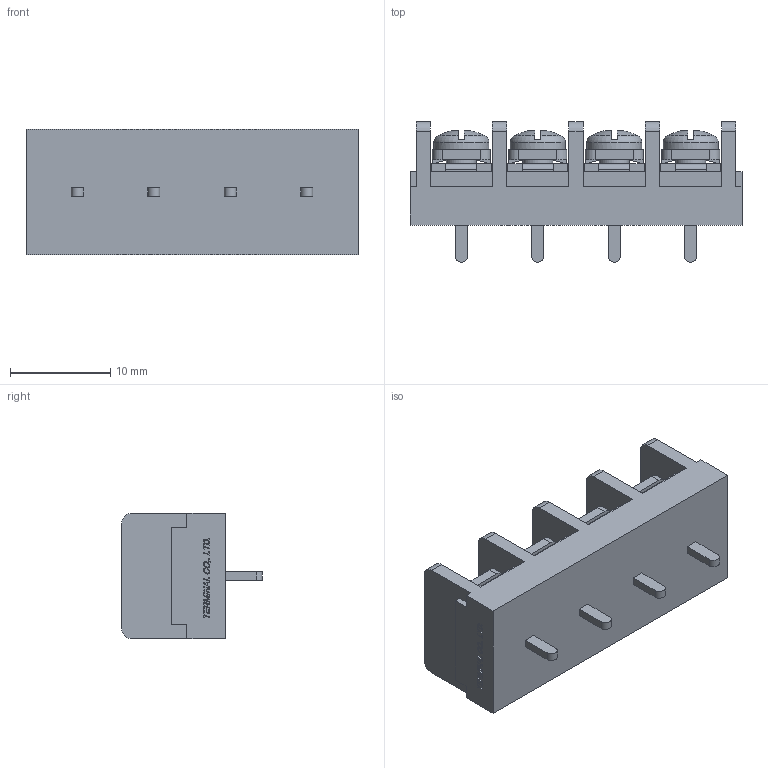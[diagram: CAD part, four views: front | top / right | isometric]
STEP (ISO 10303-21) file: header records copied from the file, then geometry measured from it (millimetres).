
FILE_DESCRIPTION(/* description */ ('Alibre Inc.'),/* implementation_level */ '2;1');
FILE_NAME(/* name */ 'export0',/* time_stamp */ '2015-10-26T16:45:52+09:00',/* author */ (''),/* organization */ (''),/* preprocessor_version */ 'ST-DEVELOPER v14',/* originating_system */ 'Alibre',/* authorisation */ '');
FILE_SCHEMA (('CONFIG_CONTROL_DESIGN'));
Length unit declared in the file: centimetre
Products named in the file (1): ID_1
Bounding box: 33.1 x 14 x 12.5 mm (x, y, z)
Volume: 3003 mm3; surface area: 2809.4 mm2
Topology: 1 solids, 1 shells, 770 faces, 2096 edges, 1384 vertices
Faces by surface type: plane 588, bspline 104, cylinder 46, cone 16, torus 8, sphere 8
Full cylindrical faces by diameter (mm): 3 x4, 5.5 x4
Entity records: 23221 total; most frequent: CARTESIAN_POINT 5307, ORIENTED_EDGE 4144, DIRECTION 2674, EDGE_CURVE 2072, VECTOR 1532, LINE 1532, VERTEX_POINT 1376, AXIS2_PLACEMENT_3D 847
